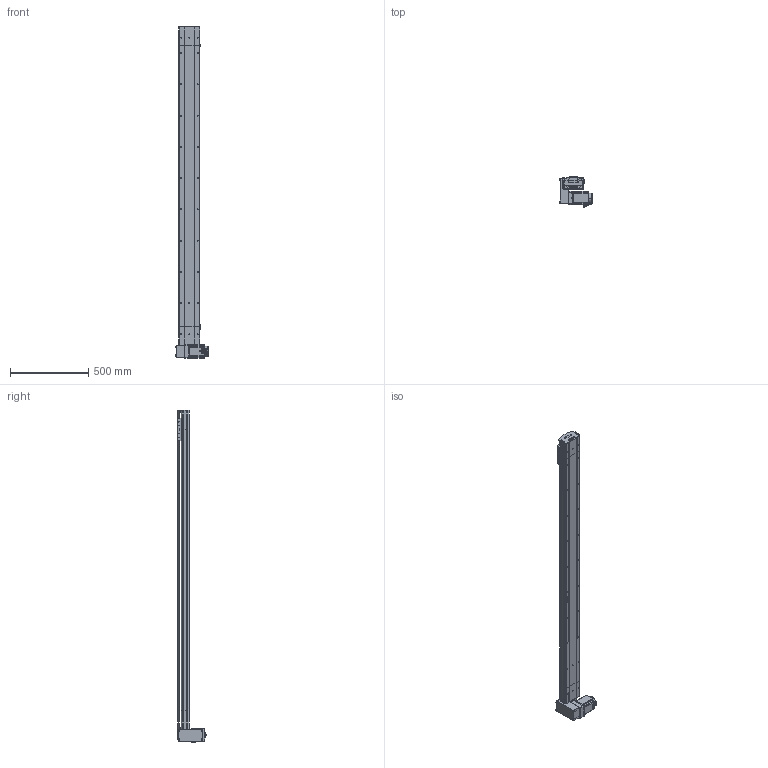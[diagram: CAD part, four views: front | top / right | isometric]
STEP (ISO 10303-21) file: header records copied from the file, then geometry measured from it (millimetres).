
FILE_DESCRIPTION (( 'STEP AP214' ), '1' );
FILE_NAME ('D14 TBH RU S1800.STEP', '2010-06-29T14:09:23', ( 'Conseil Régional Haute-Normandie' ), ( 'Conseil Régional Haute-Normandie' ), 'SwSTEP 2.0', 'SolidWorks 2010', '' );
FILE_SCHEMA (( 'AUTOMOTIVE_DESIGN' ));
Length unit declared in the file: millimetre
Products named in the file (39): avant 90BLDC100A-640; D14 couroie L1800_Default; corpl 1800_Default; corps 90BLDC100A-640; D14 TB H RU_Default; Rail + couroie D14 Course 1800 ; couvercle D14 course L1800_Default; Tail D14B_Default; plaque de  bout tail D14_Default; corpl tail D14_Default; vis M5 L16_Default; tete d''axe haut D14; Arbre+rail tail D14; couvercle D14_Default; vis M5 L8 90°_Default; poulie tail_Default; codeur 90BLDC100-640; Couroie_Default; Plaque racord D14_Default; Conecteur_Default; Cache_Default; corp head D14_Default; plaque de  bout head D14 RU_Default; Arbre+rail head D14; Conecteur2_Default; poulie head_Default; couroie 2_Default; Cache arbre_Default; couvercle D14 head_Default; renvoi RH_Default; vis M5 L5_Default; Moteur motionking 90BLDC100A-640; vis M5 L12_Default; guide D14; Chariot D14; chariot D14B_Default; Cvis M5 L70_Default; Vis M5 L16-2_Default; D14 TBH RU S1800
Assembly tree (68 placements, depth 4):
  D14 TBH RU S1800
    D14 TB H RU_Default
      plaque de  bout head D14 RU_Default
      Cache_Default  x2
      Cvis M5 L70_Default  x4
      vis M5 L12_Default  x12
      Vis M5 L16-2_Default  x4
      vis M5 L5_Default  x2
      Plaque racord D14_Default
      Arbre+rail head D14
      Moteur motionking 90BLDC100A-640
        Conecteur_Default
        Conecteur2_Default
        corps 90BLDC100A-640
        avant 90BLDC100A-640
        codeur 90BLDC100-640
      renvoi RH_Default
      corp head D14_Default
      couroie 2_Default
      poulie head_Default
      couvercle D14 head_Default
      Cache arbre_Default
    chariot D14B_Default
      Chariot D14
      vis M5 L12_Default  x4
      guide D14  x2
    Tail D14B_Default
      vis M5 L12_Default  x4
      poulie tail_Default
      couvercle D14_Default
      tete d''axe haut D14
      Couroie_Default
      vis M5 L8 90°_Default  x2
      corpl tail D14_Default
      plaque de  bout tail D14_Default
      Arbre+rail tail D14
      vis M5 L16_Default  x2
    D14 couroie L1800_Default
      couvercle D14 course L1800_Default
      corpl 1800_Default
      Rail + couroie D14 Course 1800 
Bounding box: 207.2 x 191.1 x 2125.75 mm (x, y, z)
Volume: 8518141 mm3; surface area: 2957404.1 mm2
Topology: 92 solids, 92 shells, 2677 faces, 6539 edges, 4218 vertices
Faces by surface type: plane 1601, cylinder 763, bspline 136, torus 89, cone 84, sphere 4
Entity records: 80576 total; most frequent: CARTESIAN_POINT 23773, ORIENTED_EDGE 9938, DIRECTION 9772, EDGE_CURVE 4969, VECTOR 3310, LINE 3310, VERTEX_POINT 3268, AXIS2_PLACEMENT_3D 3231
